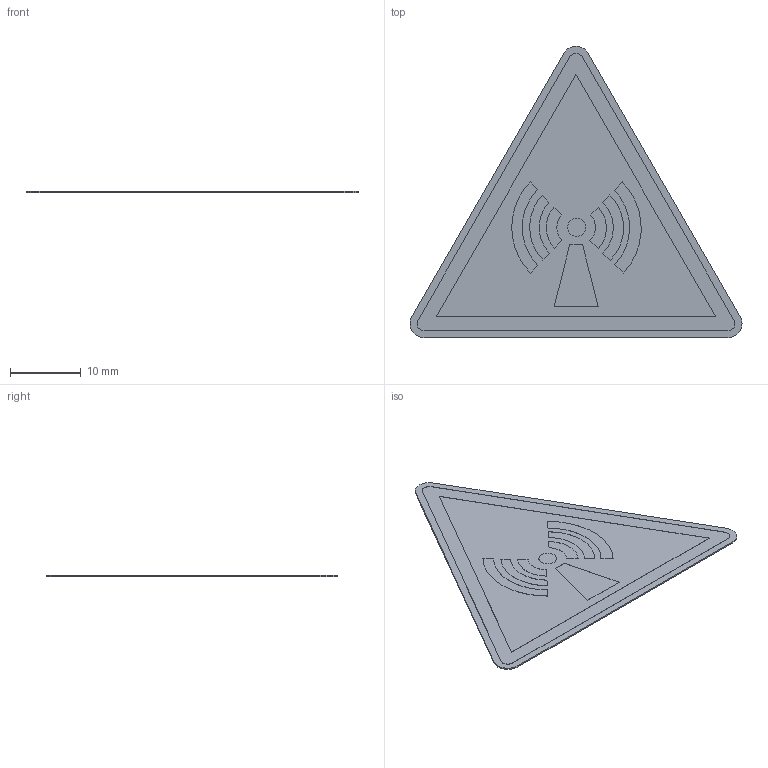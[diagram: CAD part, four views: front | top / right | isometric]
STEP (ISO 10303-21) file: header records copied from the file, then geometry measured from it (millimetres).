
FILE_DESCRIPTION (( 'STEP AP214' ), '1' );
FILE_NAME ('W005_Warnung vor nichtionisierender Strahlung.STEP', '2022-02-22T08:09:52', ( '' ), ( '' ), 'SwSTEP 2.0', 'SolidWorks 2021', '' );
FILE_SCHEMA (( 'AUTOMOTIVE_DESIGN' ));
Length unit declared in the file: millimetre
Products named in the file (1): W005_Warnung vor nichtionisierender Strahlung
Bounding box: 47.07 x 41.3 x 0.22 mm (x, y, z)
Volume: 221.2 mm3; surface area: 2183.7 mm2
Topology: 1 solids, 1 shells, 65 faces, 159 edges, 106 vertices
Faces by surface type: plane 37, cylinder 28
Entity records: 2568 total; most frequent: DIRECTION 347, CARTESIAN_POINT 331, ORIENTED_EDGE 318, EDGE_CURVE 159, AXIS2_PLACEMENT_3D 122, VERTEX_POINT 106, LINE 103, VECTOR 103
